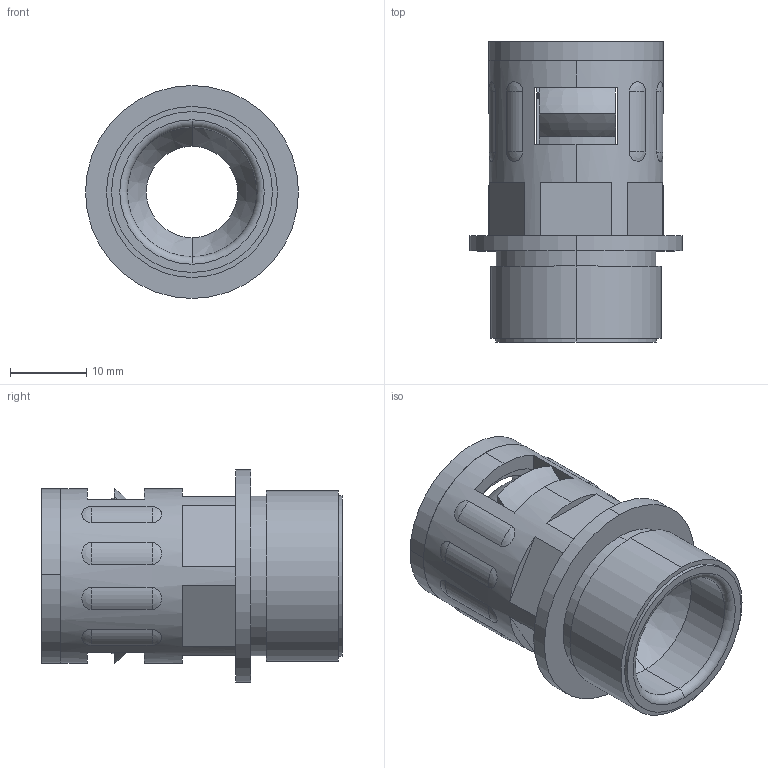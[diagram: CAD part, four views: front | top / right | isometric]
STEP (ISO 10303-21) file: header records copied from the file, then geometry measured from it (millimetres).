
FILE_DESCRIPTION (( 'STEP AP203' ), '1' );
FILE_NAME ('WQG-P16-AD15.8.STEP', '2020-03-12T05:30:15', ( '' ), ( '' ), 'SwSTEP 2.0', 'SolidWorks 2016', '' );
FILE_SCHEMA (( 'CONFIG_CONTROL_DESIGN' ));
Length unit declared in the file: millimetre
Products named in the file (4): NSK-AD15.8; GFD-AD15.8; WQG-P16-AD15.8; WQG-P16-AD15.8-01
Assembly tree (3 placements, depth 2):
  WQG-P16-AD15.8
    WQG-P16-AD15.8-01
    GFD-AD15.8
    NSK-AD15.8
Bounding box: 28 x 39.5 x 28 mm (x, y, z)
Volume: 7843.7 mm3; surface area: 9165.6 mm2
Topology: 3 solids, 3 shells, 188 faces, 491 edges, 304 vertices
Faces by surface type: plane 67, cone 49, cylinder 36, torus 20, sphere 16
Entity records: 6389 total; most frequent: CARTESIAN_POINT 1429, DIRECTION 1019, ORIENTED_EDGE 918, EDGE_CURVE 459, AXIS2_PLACEMENT_3D 410, VERTEX_POINT 288, CIRCLE 216, EDGE_LOOP 213
